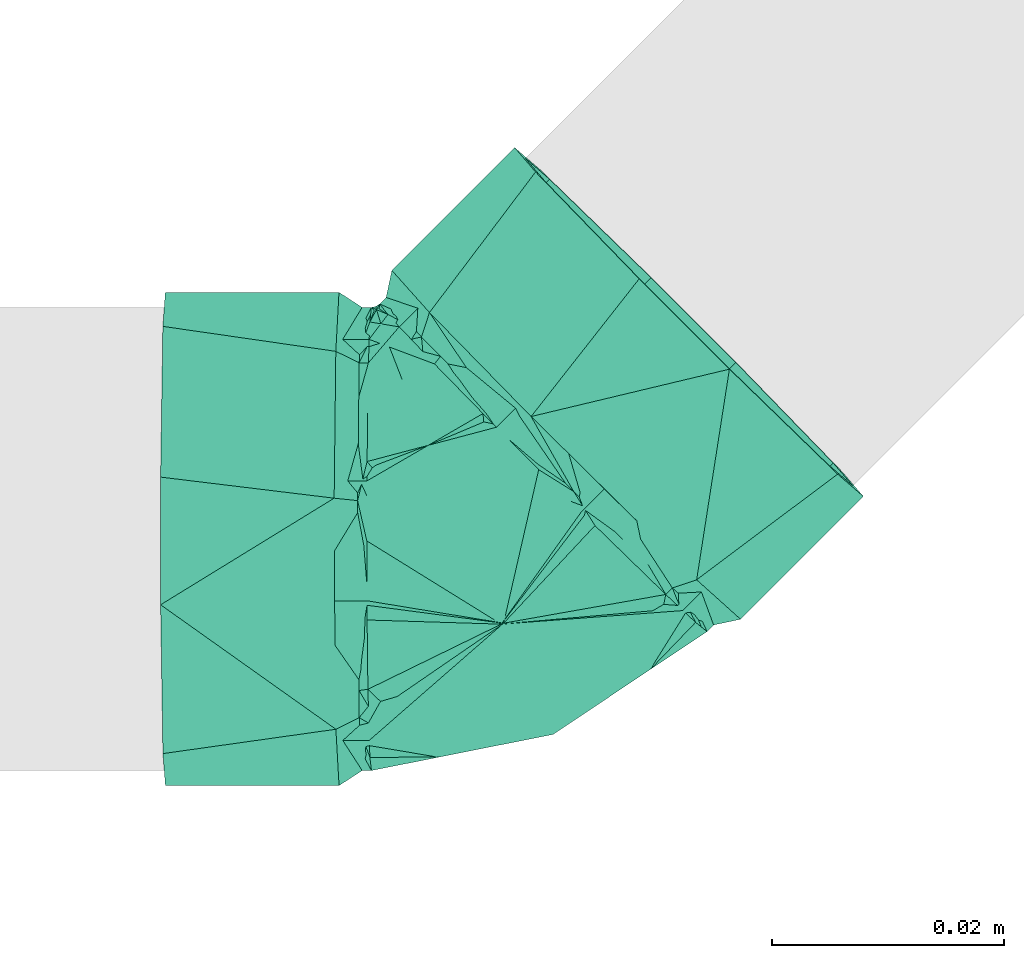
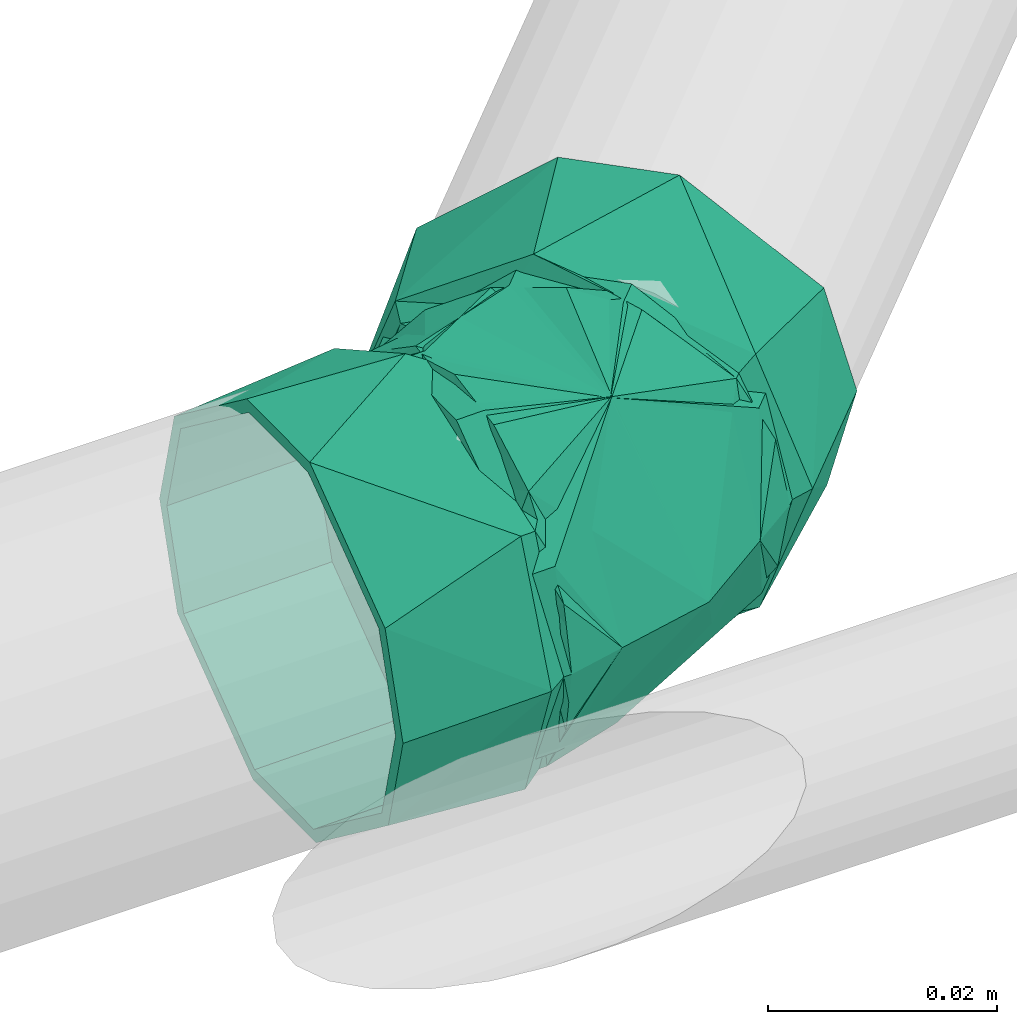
# One storey, part 314 of 589: 1 flow fitting.
"""IFC2X3 building model written with IfcOpenShell, lengths in millimetres."""

import ifcopenshell
import ifcopenshell.guid

model = None  # the IFC model being written
_history = None  # IfcOwnerHistory: only IFC2X3 demands one
_inside = {}  # id of a spatial element -> (the spatial element, [elements in it])
_under = {}  # id of a project, library or spatial element -> (it, [spatial elements below it])
_declared = {}  # id of a project -> (the project, [libraries it declares])
_typed = {}  # id of a type object -> (the type object, [elements of that type])
_made_of = {}  # id of a material, layer set ... -> (it, [elements and type objects made of it])


def new_model(schema):
    """Start an empty IFC model of exactly this schema.

    Asked for "IFC4X3", IfcOpenShell would pick the latest addendum, in which some entities
    have other attributes; the version numbers below select the first issue.
    IFC2X3 requires an IfcOwnerHistory on every rooted entity: one is made here for all.
    """
    global model, _history
    if schema == "IFC4X3":
        model = ifcopenshell.file(schema_version=(4, 3, 0, 0))
    else:
        model = ifcopenshell.file(schema=schema)
    _inside.clear()
    _under.clear()
    _declared.clear()
    _typed.clear()
    _made_of.clear()
    _history = None
    if model.schema == "IFC2X3":
        org = make("IfcOrganization", Name="unknown")
        user = make(
            "IfcPersonAndOrganization",
            ThePerson=make("IfcPerson", FamilyName="unknown"),
            TheOrganization=org,
        )
        app = make(
            "IfcApplication",
            ApplicationDeveloper=org,
            Version="unknown",
            ApplicationFullName="unknown",
            ApplicationIdentifier="unknown",
        )
        _history = make(
            "IfcOwnerHistory",
            OwningUser=user,
            OwningApplication=app,
            ChangeAction="ADDED",
            CreationDate=0,
        )
    return model


def make(cls, **values):
    """One entity of the class cls with the attributes given. An attribute that is None is left unset."""
    return model.create_entity(
        cls, **{name: value for name, value in values.items() if value is not None}
    )


def entity(cls, *values):
    """Any entity or typed value of the class cls, its attributes in the order of the schema. None: left unset."""
    e = model.create_entity(cls)
    for i, value in enumerate(values):
        if value is not None:
            e[i] = value
    return e


def rooted(cls, **values):
    """An entity with a GlobalId (a new one), such as an element, a storey or a relation."""
    return make(cls, GlobalId=ifcopenshell.guid.new(), OwnerHistory=_history, **values)


def si_unit(unit_type, name, prefix=None):
    """IfcSIUnit, for example si_unit("LENGTHUNIT", "METRE", prefix="MILLI")."""
    return make("IfcSIUnit", UnitType=unit_type, Prefix=prefix, Name=name)


def converted_unit(unit_type, name, factor, base, dimensions=None, offset=None):
    """IfcConversionBasedUnit, such as the inch: factor (a typed value) times the base unit."""
    return make(
        "IfcConversionBasedUnit"
        if offset is None
        else "IfcConversionBasedUnitWithOffset",
        ConversionOffset=offset,
        Dimensions=None
        if dimensions is None
        else entity("IfcDimensionalExponents", *dimensions),
        UnitType=unit_type,
        Name=name,
        ConversionFactor=make(
            "IfcMeasureWithUnit", ValueComponent=factor, UnitComponent=base
        ),
    )


def derived_unit(unit_type, elements):
    """IfcDerivedUnit: a product of units, each with its exponent."""
    return make(
        "IfcDerivedUnit",
        Elements=[
            make("IfcDerivedUnitElement", Unit=unit, Exponent=power)
            for unit, power in elements
        ],
        UnitType=unit_type,
    )


def assignment(units):
    """IfcUnitAssignment: the units of a project."""
    return None if units is None else make("IfcUnitAssignment", Units=units)


def point(xyz):
    """IfcCartesianPoint."""
    return None if xyz is None else make("IfcCartesianPoint", Coordinates=xyz)


def direction(xyz):
    """IfcDirection."""
    return None if xyz is None else make("IfcDirection", DirectionRatios=xyz)


def frame(location, z_axis=None, x_axis=None):
    """IfcAxis2Placement3D, a coordinate frame: its origin and axes. An axis left out is left unset."""
    return make(
        "IfcAxis2Placement3D",
        Location=point(location),
        Axis=direction(z_axis),
        RefDirection=direction(x_axis),
    )


def origin():
    """The frame at (0, 0, 0) with its axes left unset."""
    return frame((0.0, 0.0, 0.0))


def place(relative_to, where):
    """IfcLocalPlacement: puts the frame where relative to a parent placement (None: the world)."""
    return make(
        "IfcLocalPlacement", PlacementRelTo=relative_to, RelativePlacement=where
    )


def context(
    kind, dimensions, precision=None, world=None, true_north=None, identifier=None
):
    """IfcGeometricRepresentationContext, for example the 3D "Model" context."""
    return make(
        "IfcGeometricRepresentationContext",
        ContextIdentifier=identifier,
        ContextType=kind,
        CoordinateSpaceDimension=dimensions,
        Precision=precision,
        WorldCoordinateSystem=world,
        TrueNorth=true_north,
    )


def subcontext(parent, identifier, kind, view, scale=None):
    """IfcGeometricRepresentationSubContext, for example "Body" below "Model"."""
    return make(
        "IfcGeometricRepresentationSubContext",
        ContextIdentifier=identifier,
        ContextType=kind,
        ParentContext=parent,
        TargetScale=scale,
        TargetView=view,
    )


def project(units=None, contexts=None):
    """IfcProject with its units and contexts."""
    return rooted(
        "IfcProject",
        Name="project",
        RepresentationContexts=contexts,
        UnitsInContext=assignment(units),
    )


def spatial(cls, under=None, at=None, **own):
    """A site, building, storey or space (cls), placed at a placement, below another one or the project."""
    s = rooted(cls, ObjectPlacement=at, **own)
    if under is not None:
        _under.setdefault(under.id(), (under, []))[1].append(s)
    return s


def faces_of(points, faces, orient=None, outer=None):
    """IfcFace entities. A face is a list of loops; a loop is a list of indices into points, from 0.

    orient and outer hold one flag for each loop. By default every Orientation is true, the
    first loop of a face is its IfcFaceOuterBound and the others are IfcFaceBound.
    """
    made = []
    for i, loops in enumerate(faces):
        bounds = []
        for j, loop in enumerate(loops):
            is_outer = j == 0 if outer is None else outer[i][j]
            bounds.append(
                make(
                    "IfcFaceOuterBound" if is_outer else "IfcFaceBound",
                    Bound=make("IfcPolyLoop", Polygon=[points[k] for k in loop]),
                    Orientation=True if orient is None else orient[i][j],
                )
            )
        made.append(make("IfcFace", Bounds=bounds))
    return made


def faceted_brep(points, faces, orient=None, outer=None, voids=None):
    """IfcFacetedBrep: a solid bounded by flat faces; with voids (closed shells), ...WithVoids."""
    shared = [point(p) for p in points]
    hull = make("IfcClosedShell", CfsFaces=faces_of(shared, faces, orient, outer))
    if voids is None:
        return make("IfcFacetedBrep", Outer=hull)
    return make(
        "IfcFacetedBrepWithVoids",
        Outer=hull,
        Voids=[
            make(cls, CfsFaces=faces_of(shared, fs, o, b)) for cls, fs, o, b in voids
        ],
    )


def shape(context_of_items, identifier, shape_type, items):
    """IfcShapeRepresentation: the items that make up one representation, for example the "Body"."""
    return make(
        "IfcShapeRepresentation",
        ContextOfItems=context_of_items,
        RepresentationIdentifier=identifier,
        RepresentationType=shape_type,
        Items=items,
    )


def source(mapping_origin, context_of_items, identifier, shape_type, items):
    """IfcRepresentationMap: a shape defined once, which mapped items show again and again."""
    return make(
        "IfcRepresentationMap",
        MappingOrigin=mapping_origin,
        MappedRepresentation=shape(context_of_items, identifier, shape_type, items),
    )


def transform(
    local_origin,
    x_axis=None,
    y_axis=None,
    z_axis=None,
    scale=None,
    scale2=None,
    scale3=None,
    uniform=True,
):
    """IfcCartesianTransformationOperator3D, or its non-uniform kind. x_axis, y_axis, z_axis: its Axis1, 2, 3."""
    if uniform:
        return make(
            "IfcCartesianTransformationOperator3D",
            Axis1=direction(x_axis),
            Axis2=direction(y_axis),
            LocalOrigin=point(local_origin),
            Scale=scale,
            Axis3=direction(z_axis),
        )
    return make(
        "IfcCartesianTransformationOperator3DnonUniform",
        Axis1=direction(x_axis),
        Axis2=direction(y_axis),
        LocalOrigin=point(local_origin),
        Scale=scale,
        Axis3=direction(z_axis),
        Scale2=scale2,
        Scale3=scale3,
    )


def mapped(mapping_source, mapping_target):
    """IfcMappedItem: shows the shape of a source again, moved by a transform."""
    return make(
        "IfcMappedItem", MappingSource=mapping_source, MappingTarget=mapping_target
    )


def material(Name=None, Category=None):
    """IfcMaterial."""
    return make("IfcMaterial", Name=Name, Category=Category)


def made_of(thing, what):
    """Note that an element or type object is made of a material, layer set ...; save() writes the relation."""
    if what is not None:
        _made_of.setdefault(what.id(), (what, []))[1].append(thing)
    return thing


def type_object(cls, material=None, **own):
    """A type object (cls), such as IfcWallType, which elements share."""
    return made_of(rooted(cls, **own), material)


def type_shapes(of_type, sources):
    """Give a type object the sources (RepresentationMaps) that its elements show as mapped items."""
    of_type.RepresentationMaps = sources


def element(
    cls,
    number,
    at=None,
    inside=None,
    cuts=None,
    type_object=None,
    material=None,
    context=None,
    identifier="Body",
    shape_type=None,
    held_by="IfcProductDefinitionShape",
    body=None,
    shapes=None,
    **own,
):
    """One element of the class cls, such as IfcWall. Its Tag is "e" and its number.

    at: its placement. inside: the storey or other place that contains it. cuts: it is an
    opening in that element (IfcRelVoidsElement). A single representation is given by context,
    identifier, shape_type and body (its items); several are given by shapes. held_by: the class
    of the entity that holds the representations. save() writes the other relations.
    """
    e = rooted(cls, Tag="e%d" % number, ObjectPlacement=at, **own)
    if body is not None:
        shapes = [shape(context, identifier, shape_type, body)]
    if shapes is not None:
        e.Representation = make(held_by, Representations=shapes)
    if inside is not None:
        _inside.setdefault(inside.id(), (inside, []))[1].append(e)
    if cuts is not None:
        rooted(
            "IfcRelVoidsElement", RelatingBuildingElement=cuts, RelatedOpeningElement=e
        )
    if type_object is not None:
        _typed.setdefault(type_object.id(), (type_object, []))[1].append(e)
    return made_of(e, material)


def aggregate(whole, parts):
    """IfcRelAggregates: a whole, such as a stair, and the parts it consists of."""
    return rooted("IfcRelAggregates", RelatingObject=whole, RelatedObjects=parts)


def save(model, path):
    """Write the relations noted so far, then the file.

    IfcRelAggregates (storeys below a building ...), IfcRelContainedInSpatialStructure (elements
    in a storey), IfcRelDefinesByType, IfcRelAssociatesMaterial and IfcRelDeclares: one each for
    every whole, place, type object, material and project.
    """
    for whole, parts in _under.values():
        aggregate(whole, parts)
    for where, things in _inside.values():
        rooted(
            "IfcRelContainedInSpatialStructure",
            RelatedElements=things,
            RelatingStructure=where,
        )
    for kind, things in _typed.values():
        rooted("IfcRelDefinesByType", RelatedObjects=things, RelatingType=kind)
    for what, things in _made_of.values():
        rooted("IfcRelAssociatesMaterial", RelatedObjects=things, RelatingMaterial=what)
    for by, libraries in _declared.values():
        rooted("IfcRelDeclares", RelatingContext=by, RelatedDefinitions=libraries)
    model.write(path)


model = new_model("IFC2X3")

# Units and contexts
model_context = context("Model", 3, precision=0.01, world=origin(), true_north=direction((6.123031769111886e-17, 1.0)))
body_context = subcontext(model_context, "Body", "Model", "MODEL_VIEW")
ifc_project = project(units=[si_unit("LENGTHUNIT", "METRE", prefix="MILLI"), si_unit("AREAUNIT", "SQUARE_METRE"), si_unit("VOLUMEUNIT", "CUBIC_METRE"), converted_unit("PLANEANGLEUNIT", "DEGREE", entity("IfcRatioMeasure", 0.017453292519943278), si_unit("PLANEANGLEUNIT", "RADIAN"), dimensions=[0, 0, 0, 0, 0, 0, 0]), si_unit("MASSUNIT", "GRAM", prefix="KILO"), derived_unit("MASSDENSITYUNIT", [(si_unit("MASSUNIT", "GRAM", prefix="KILO"), 1), (si_unit("LENGTHUNIT", "METRE"), -3)]), derived_unit("IONCONCENTRATIONUNIT", [(si_unit("MASSUNIT", "GRAM", prefix="KILO"), 1), (si_unit("LENGTHUNIT", "METRE"), -3)]), derived_unit("MOMENTOFINERTIAUNIT", [(si_unit("LENGTHUNIT", "METRE"), 4)]), si_unit("TIMEUNIT", "SECOND"), si_unit("FREQUENCYUNIT", "HERTZ"), si_unit("THERMODYNAMICTEMPERATUREUNIT", "DEGREE_CELSIUS"), derived_unit("THERMALTRANSMITTANCEUNIT", [(si_unit("MASSUNIT", "GRAM", prefix="KILO"), 1), (si_unit("THERMODYNAMICTEMPERATUREUNIT", "KELVIN"), -1), (si_unit("TIMEUNIT", "SECOND"), -3)]), derived_unit("THERMALCONDUCTANCEUNIT", [(si_unit("MASSUNIT", "GRAM", prefix="KILO"), 1), (si_unit("THERMODYNAMICTEMPERATUREUNIT", "KELVIN"), -1), (si_unit("TIMEUNIT", "SECOND"), -3), (si_unit("LENGTHUNIT", "METRE"), 1)]), derived_unit("VOLUMETRICFLOWRATEUNIT", [(si_unit("LENGTHUNIT", "METRE"), 3), (si_unit("TIMEUNIT", "SECOND"), -1)]), derived_unit("MASSFLOWRATEUNIT", [(si_unit("MASSUNIT", "GRAM", prefix="KILO"), 1), (si_unit("TIMEUNIT", "SECOND"), -1)]), derived_unit("ROTATIONALFREQUENCYUNIT", [(si_unit("TIMEUNIT", "SECOND"), -1)]), si_unit("ELECTRICCURRENTUNIT", "AMPERE"), si_unit("ELECTRICVOLTAGEUNIT", "VOLT"), si_unit("POWERUNIT", "WATT"), si_unit("FORCEUNIT", "NEWTON", prefix="KILO"), si_unit("ILLUMINANCEUNIT", "LUX"), si_unit("LUMINOUSFLUXUNIT", "LUMEN"), si_unit("LUMINOUSINTENSITYUNIT", "CANDELA"), derived_unit("USERDEFINED", [(si_unit("MASSUNIT", "GRAM", prefix="KILO"), -1), (si_unit("LENGTHUNIT", "METRE"), -2), (si_unit("TIMEUNIT", "SECOND"), 3), (si_unit("LUMINOUSFLUXUNIT", "LUMEN"), 1)]), derived_unit("USERDEFINED", [(si_unit("MASSUNIT", "GRAM", prefix="KILO"), 1), (si_unit("TIMEUNIT", "SECOND"), -3), (si_unit("LENGTHUNIT", "METRE"), 3), (si_unit("ELECTRICCURRENTUNIT", "AMPERE"), -2)]), derived_unit("SOUNDPOWERUNIT", [(si_unit("MASSUNIT", "GRAM", prefix="KILO"), 1), (si_unit("TIMEUNIT", "SECOND"), -3), (si_unit("LENGTHUNIT", "METRE"), 2)]), derived_unit("SOUNDPRESSUREUNIT", [(si_unit("MASSUNIT", "GRAM", prefix="KILO"), 1), (si_unit("LENGTHUNIT", "METRE"), -1), (si_unit("TIMEUNIT", "SECOND"), -2)]), derived_unit("LINEARVELOCITYUNIT", [(si_unit("LENGTHUNIT", "METRE"), 1), (si_unit("TIMEUNIT", "SECOND"), -1)]), si_unit("PRESSUREUNIT", "PASCAL"), derived_unit("USERDEFINED", [(si_unit("MASSUNIT", "GRAM", prefix="KILO"), 1), (si_unit("LENGTHUNIT", "METRE"), -2), (si_unit("TIMEUNIT", "SECOND"), -2)]), derived_unit("LINEARFORCEUNIT", [(si_unit("MASSUNIT", "GRAM", prefix="KILO"), 1), (si_unit("TIMEUNIT", "SECOND"), -2)]), derived_unit("PLANARFORCEUNIT", [(si_unit("MASSUNIT", "GRAM", prefix="KILO"), 1), (si_unit("LENGTHUNIT", "METRE"), -1), (si_unit("TIMEUNIT", "SECOND"), -2)]), derived_unit("SPECIFICHEATCAPACITYUNIT", [(si_unit("THERMODYNAMICTEMPERATUREUNIT", "KELVIN"), -1), (si_unit("LENGTHUNIT", "METRE"), 2), (si_unit("TIMEUNIT", "SECOND"), -2)]), derived_unit("HEATINGVALUEUNIT", [(si_unit("LENGTHUNIT", "METRE"), 2), (si_unit("TIMEUNIT", "SECOND"), -2)]), derived_unit("VAPORPERMEABILITYUNIT", [(si_unit("LENGTHUNIT", "METRE"), -1), (si_unit("TIMEUNIT", "SECOND"), 1)]), derived_unit("DYNAMICVISCOSITYUNIT", [(si_unit("MASSUNIT", "GRAM", prefix="KILO"), 1), (si_unit("TIMEUNIT", "SECOND"), -1), (si_unit("LENGTHUNIT", "METRE"), -1)]), derived_unit("THERMALEXPANSIONCOEFFICIENTUNIT", [(si_unit("THERMODYNAMICTEMPERATUREUNIT", "KELVIN"), -1)]), derived_unit("MODULUSOFELASTICITYUNIT", [(si_unit("MASSUNIT", "GRAM", prefix="KILO"), 1), (si_unit("LENGTHUNIT", "METRE"), -1), (si_unit("TIMEUNIT", "SECOND"), -2)]), derived_unit("ISOTHERMALMOISTURECAPACITYUNIT", [(si_unit("LENGTHUNIT", "METRE"), 3), (si_unit("MASSUNIT", "GRAM", prefix="KILO"), -1)]), derived_unit("MOISTUREDIFFUSIVITYUNIT", [(si_unit("TIMEUNIT", "SECOND"), -1), (si_unit("LENGTHUNIT", "METRE"), 2)])], contexts=[model_context])

# Site, building, storey
site_placement = place(None, origin())
site = spatial("IfcSite", under=ifc_project, at=site_placement, Name="Default", CompositionType="ELEMENT")
building_placement = place(site_placement, origin())
building = spatial("IfcBuilding", under=site, at=building_placement, CompositionType="ELEMENT")
storey_placement = place(building_placement, frame((0.0, 0.0, 100.0)))
storey = spatial("IfcBuildingStorey", under=building, at=storey_placement, Name="TÉRREO", CompositionType="ELEMENT", Elevation=100.0)

# Flow fitting
ifc_material = material(Name="PVC Série Normal")
pipe_fitting_type = type_object("IfcPipeFittingType", Name="PVC Esgoto_Joelho 45_90_Rodrigo MEP:a. Série Normal", PredefinedType="NOTDEFINED", material=ifc_material)
shared_shape = source(origin(), body_context, "Body", "Brep", [
    faceted_brep([(2.4906876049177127, 9.80915852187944, 19.318516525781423), (-6.095084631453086, 18.39777540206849, 10.0), (-7.989457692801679, 20.29277610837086, 0.0), (-6.095084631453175, 18.397775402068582, -10.0), (2.4906876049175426, 9.80915852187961, -19.31851652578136), (9.809983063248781, 2.4874380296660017, -19.318516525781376), (18.39575529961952, -6.101178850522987, -10.0), (20.290128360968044, -7.99617955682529, 0.0), (18.39575529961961, -6.101178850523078, 10.0), (9.809983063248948, 2.4874380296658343, 19.318516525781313), (22.27035525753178, -6.016608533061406, 0.0), (20.37598219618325, -4.121607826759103, -10.0), (11.790209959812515, 4.467009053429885, -19.318516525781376), (4.470914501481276, 11.788729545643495, -19.31851652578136), (-4.1148577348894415, 20.377346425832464, -10.0), (-6.009230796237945, 22.272347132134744, 0.0), (-4.114857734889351, 20.377346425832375, 10.0), (4.470914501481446, 11.788729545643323, 19.318516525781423), (11.790209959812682, 4.467009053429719, 19.318516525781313), (20.37598219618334, -4.12160782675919, 10.0)], [[[0, 1, 2, 3, 4, 5, 6, 7, 8, 9]], [[10, 11, 12, 13, 14, 15, 16, 17, 18, 19]], [[7, 10, 19, 8]], [[8, 19, 18, 9]], [[18, 17, 0, 9]], [[0, 17, 16, 1]], [[1, 16, 15, 2]], [[2, 15, 14, 3]], [[3, 14, 13, 4]], [[13, 12, 5, 4]], [[5, 12, 11, 6]], [[6, 11, 10, 7]]]),
    faceted_brep([(-11.496447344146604, -17.320508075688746, -10.0), (-11.496447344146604, -20.0, 0.0), (-11.496447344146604, -17.320508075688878, 10.0), (-11.496447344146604, -5.176380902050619, 19.318516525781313), (-11.496447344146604, 5.1763809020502, 19.318516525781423), (-11.496447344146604, 17.320508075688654, 10.0), (-11.496447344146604, 20.0, 0.0), (-11.496447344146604, 17.320508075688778, -10.0), (-11.496447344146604, 5.17638090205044, -19.31851652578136), (-11.496447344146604, -5.176380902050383, -19.318516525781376), (-8.696447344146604, 5.17638090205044, -19.31851652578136), (-8.696447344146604, 17.320508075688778, -10.0), (-8.696447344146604, 20.0, 0.0), (-8.696447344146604, 17.320508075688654, 10.0), (-8.696447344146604, 5.1763809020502, 19.318516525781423), (-8.696447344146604, -5.176380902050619, 19.318516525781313), (-8.696447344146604, -17.320508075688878, 10.0), (-8.696447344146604, -20.0, 0.0), (-8.696447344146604, -17.320508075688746, -10.0), (-8.696447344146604, -5.176380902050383, -19.318516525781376)], [[[0, 1, 2, 3, 4, 5, 6, 7, 8, 9]], [[10, 11, 12, 13, 14, 15, 16, 17, 18, 19]], [[1, 17, 16, 2]], [[2, 16, 15, 3]], [[15, 14, 4, 3]], [[4, 14, 13, 5]], [[5, 13, 12, 6]], [[6, 12, 11, 7]], [[7, 11, 10, 8]], [[10, 19, 9, 8]], [[9, 19, 18, 0]], [[0, 18, 17, 1]]]),
    faceted_brep([(-26.496447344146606, -5.512845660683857, -20.574220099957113), (-26.496447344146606, -5.176380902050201, -19.318516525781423), (-26.496447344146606, 5.176380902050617, -19.318516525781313), (-26.496447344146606, -18.44634110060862, -10.649999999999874), (-26.496447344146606, 5.512845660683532, -20.574220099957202), (-26.496447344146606, -17.320508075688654, -10.0), (-26.496447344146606, -20.0, 0.0), (-26.496447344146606, -21.3, 0.0), (-26.496447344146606, -17.32050807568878, 10.0), (-26.496447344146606, -18.446341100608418, 10.65000000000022), (-26.496447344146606, -5.176380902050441, 19.31851652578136), (-26.496447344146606, -5.512845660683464, 20.574220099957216), (-26.496447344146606, 5.176380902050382, 19.318516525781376), (-26.496447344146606, 5.512845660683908, 20.5742200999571), (-26.496447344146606, 17.320508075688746, 10.0), (-26.496447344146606, 18.446341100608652, 10.649999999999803), (-26.496447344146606, 21.3, 0.0), (-26.496447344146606, 20.0, 0.0), (-26.496447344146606, 18.44634110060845, -10.650000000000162), (-26.496447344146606, 17.320508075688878, -10.0), (-11.496447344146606, 17.320508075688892, -10.0), (-11.496447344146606, 20.0, 0.0), (-11.496447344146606, 5.17638090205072, -19.318516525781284), (-11.496447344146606, -5.176380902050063, -19.31851652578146), (-11.496447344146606, -17.320508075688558, -10.0), (-11.496447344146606, -20.0, 0.0), (-11.496447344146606, -17.320508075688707, 10.0), (-11.496447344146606, -5.176380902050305, 19.318516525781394), (-11.496447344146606, 5.176380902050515, 19.318516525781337), (-11.496447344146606, 17.320508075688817, 10.0), (-11.496447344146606, 21.3, 0.0), (-11.496447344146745, 16.315983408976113, 13.692285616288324), (-11.496447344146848, 3.696367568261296, 20.976817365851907), (-11.496447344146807, -16.31941754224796, 13.688192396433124), (-11.496447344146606, -21.3, 0.0), (-11.496447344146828, -6.311524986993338, 17.3325048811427), (-11.496447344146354, -16.319417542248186, -13.688192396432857), (-11.496447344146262, -3.7016293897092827, -20.975889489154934), (-11.49644734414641, 16.315983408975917, -13.692285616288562), (-11.496447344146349, 6.307177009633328, -17.334087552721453), (-9.496447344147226, -3.470767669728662, -19.69654212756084), (-9.496447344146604, 20.0, 0.0), (-9.496447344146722, 18.830849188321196, -3.2131907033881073), (-9.496447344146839, 17.66169837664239, -6.426381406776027), (-9.496447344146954, 16.4925475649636, -9.639572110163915), (-9.496447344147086, 15.323396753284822, -12.852762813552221), (-9.496447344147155, 5.9263145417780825, -16.27465247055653), (-9.496447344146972, -15.320172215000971, -12.856606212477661), (-9.496447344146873, -16.490129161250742, -9.642454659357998), (-9.496447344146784, -17.660086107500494, -6.428303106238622), (-9.496447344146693, -18.830043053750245, -3.214151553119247), (-9.496447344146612, -20.0, 0.0), (-9.496447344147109, 10.624855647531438, -14.563707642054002), (-9.496447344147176, 1.2277734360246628, -17.98559729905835), (-9.49644734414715, -6.433118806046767, -17.98655814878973), (-9.496447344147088, -9.395469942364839, -16.276574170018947), (-9.496447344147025, -12.357821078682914, -14.566590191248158), (-9.49644734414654, -18.830043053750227, 3.2141515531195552), (-9.496447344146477, -17.660086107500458, 6.428303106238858), (-9.49644734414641, -16.490129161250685, 9.64245465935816), (-9.496447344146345, -15.3201722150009, 12.856606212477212), (-9.496447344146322, -12.970687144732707, 13.711489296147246), (-9.496447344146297, -10.621202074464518, 14.566372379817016), (-9.496447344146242, -5.922231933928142, 16.27613854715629), (-9.496447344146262, 15.323396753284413, 12.852762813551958), (-9.496447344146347, 16.49254756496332, 9.63957211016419), (-9.496447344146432, 17.661698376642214, 6.426381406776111), (-9.496447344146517, 18.830849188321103, 3.213190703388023), (-9.496447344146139, 3.47570834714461, 19.695670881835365), (-9.496447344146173, 6.43763044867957, 17.984943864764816), (-9.496447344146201, 9.399552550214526, 16.274216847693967), (-9.496447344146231, 12.361474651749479, 14.563489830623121), (-9.496447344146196, -1.2232617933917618, 17.985904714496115), (-8.696447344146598, 17.057389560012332, 9.848048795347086), (-8.696447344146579, 6.840479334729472, 18.793824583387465), (-8.696447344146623, -9.848049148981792, 17.057385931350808), (-8.696447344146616, -3.420183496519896, 19.396932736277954), (-8.696447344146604, 0.0, 20.0), (-8.696447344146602, 19.396930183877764, 3.4201905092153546), (-8.696447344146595, 15.320918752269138, 12.855716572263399), (-8.696447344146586, 11.080699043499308, 15.82477057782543), (-8.696447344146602, 18.793860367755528, 6.840381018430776), (-8.696447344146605, -18.793848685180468, 6.840413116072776), (-8.696447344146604, 20.0, 0.0), (-8.696447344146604, -20.0, 0.0), (-8.69644734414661, -15.824789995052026, 11.080659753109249), (-8.696447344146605, -19.156924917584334, 4.781308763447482), (-8.696447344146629, -6.84036699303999, 18.793865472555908), (-8.696447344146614, -14.34026064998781, 13.200783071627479), (-8.696447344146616, -12.855731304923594, 15.320906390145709), (-8.696447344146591, 3.420239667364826, 19.396912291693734), (-8.696447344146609, -17.057361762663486, -9.848091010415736), (-8.696447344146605, -18.793848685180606, -6.840413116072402), (-8.696447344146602, 19.39693018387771, -3.4201905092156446), (-8.696447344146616, -3.420183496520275, -19.396932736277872), (-8.696447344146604, 0.0, -20.0), (-8.696447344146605, -19.396924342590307, -3.4202065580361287), (-8.696447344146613, -15.320874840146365, -12.85576890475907), (-8.69644734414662, -11.080620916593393, -15.824817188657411), (-8.696447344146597, 15.824828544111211, -11.080616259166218), (-8.696447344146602, 18.79386036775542, -6.84038101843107), (-8.696447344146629, -6.840366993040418, -18.79386547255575), (-8.696447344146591, 12.855796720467, -15.320851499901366), (-8.696447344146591, 3.420239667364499, -19.396912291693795), (-8.696447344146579, 6.840479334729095, -18.7938245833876), (-8.696447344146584, 9.848138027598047, -17.05733804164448), (9.809983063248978, 2.4874380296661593, -19.318516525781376), (2.4906876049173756, 9.809158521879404, -19.31851652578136), (-6.095084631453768, 18.397775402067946, -10.0), (-7.989457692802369, 20.292776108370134, 0.0), (-6.095084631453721, 18.3977754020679, 10.0), (2.490687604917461, 9.809158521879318, 19.31851652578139), (9.809983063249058, 2.487438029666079, 19.318516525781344), (18.395755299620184, -6.101178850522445, 10.0), (20.29012836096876, -7.996179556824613, 0.0), (18.39575529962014, -6.101178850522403, -10.0), (-2.9114305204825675, -18.849537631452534, 0.0), (15.385461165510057, -11.272492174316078, 0.0), (2.8664382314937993, -7.211469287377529, 17.605576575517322), (6.9904363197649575, -16.880360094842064, 0.0), (-8.313840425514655, 20.076088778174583, 0.0), (2.8664382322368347, -7.211469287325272, -17.605576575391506)], [[[0, 1, 2]], [[1, 0, 3]], [[2, 4, 0]], [[3, 5, 1]], [[3, 6, 5]], [[6, 3, 7]], [[8, 6, 7]], [[8, 7, 9]], [[9, 10, 8]], [[9, 11, 10]], [[10, 11, 12]], [[13, 12, 11]], [[13, 14, 12]], [[14, 13, 15]], [[16, 14, 15]], [[17, 14, 16]], [[18, 17, 16]], [[18, 19, 17]], [[19, 18, 4]], [[4, 2, 19]], [[20, 21, 17, 19]], [[22, 20, 19, 2]], [[2, 1, 23, 22]], [[24, 23, 1, 5]], [[25, 24, 5, 6]], [[26, 25, 6, 8]], [[27, 26, 8, 10]], [[10, 12, 28, 27]], [[29, 28, 12, 14]], [[21, 29, 14, 17]], [[16, 15, 30]], [[15, 31, 30]], [[31, 15, 13]], [[31, 13, 32]], [[33, 11, 9]], [[34, 9, 7]], [[11, 33, 35, 32]], [[33, 9, 34]], [[11, 32, 13]], [[7, 3, 34]], [[3, 36, 34]], [[36, 3, 0]], [[36, 0, 37]], [[38, 4, 18]], [[30, 18, 16]], [[4, 38, 39, 37]], [[38, 18, 30]], [[4, 37, 0]], [[28, 29, 21, 20, 22, 23, 24, 25, 26, 27]], [[39, 40, 37]], [[30, 41, 42, 43, 44, 45]], [[30, 45, 38]], [[38, 46, 39]], [[36, 47, 48, 49, 50, 51]], [[38, 45, 52, 46]], [[36, 37, 47]], [[34, 36, 51]], [[39, 46, 53, 40]], [[37, 40, 54, 55, 56, 47]], [[33, 51, 57, 58, 59, 60]], [[33, 34, 51]], [[60, 35, 33]], [[35, 60, 61, 62, 63]], [[63, 32, 35]], [[30, 64, 65, 66, 67, 41]], [[31, 68, 69, 70, 71, 64]], [[31, 64, 30]], [[32, 63, 72, 68]], [[68, 31, 32]], [[64, 73, 65]], [[74, 70, 69, 68]], [[62, 75, 63]], [[76, 77, 72]], [[78, 67, 66]], [[79, 71, 80]], [[65, 81, 66]], [[64, 79, 73]], [[82, 59, 58]], [[83, 41, 67]], [[84, 57, 51]], [[60, 59, 85]], [[83, 67, 78]], [[86, 82, 58]], [[81, 65, 73]], [[63, 87, 76]], [[63, 76, 72]], [[63, 75, 87]], [[82, 85, 59]], [[68, 72, 77]], [[66, 81, 78]], [[61, 88, 89]], [[89, 62, 61]], [[68, 77, 90, 74]], [[84, 86, 57]], [[86, 58, 57]], [[89, 75, 62]], [[61, 60, 88]], [[60, 85, 88]], [[74, 80, 70]], [[71, 79, 64]], [[71, 70, 80]], [[49, 91, 92]], [[93, 43, 42]], [[54, 40, 94]], [[40, 53, 95]], [[51, 96, 84]], [[97, 56, 98]], [[48, 97, 91]], [[91, 49, 48]], [[99, 44, 100]], [[101, 55, 54]], [[96, 51, 50]], [[83, 42, 41]], [[45, 99, 102]], [[49, 92, 50]], [[42, 83, 93]], [[48, 47, 97]], [[53, 103, 95]], [[104, 103, 46]], [[52, 105, 46]], [[44, 99, 45]], [[46, 103, 53]], [[50, 92, 96]], [[105, 52, 102]], [[44, 43, 100]], [[40, 95, 94]], [[100, 43, 93]], [[102, 52, 45]], [[105, 104, 46]], [[101, 98, 55]], [[54, 94, 101]], [[56, 97, 47]], [[56, 55, 98]], [[106, 107, 108, 109, 110, 111, 112, 113, 114, 115]], [[116, 89, 88, 85, 82]], [[117, 118, 119]], [[118, 89, 119]], [[118, 77, 76, 87]], [[116, 82, 86, 84]], [[118, 74, 90, 77]], [[110, 81, 73, 79]], [[111, 79, 80, 74]], [[118, 87, 75, 89]], [[89, 116, 119]], [[74, 118, 111]], [[118, 113, 112]], [[118, 117, 113]], [[120, 83, 78, 81]], [[81, 109, 120]], [[109, 81, 110]], [[117, 114, 113]], [[111, 110, 79]], [[111, 118, 112]], [[104, 107, 121]], [[116, 92, 91, 97]], [[108, 102, 99, 100]], [[115, 121, 106]], [[97, 121, 119]], [[107, 104, 105, 102]], [[116, 84, 96, 92]], [[97, 119, 116]], [[121, 97, 98, 101]], [[121, 95, 103, 104]], [[109, 100, 120]], [[108, 100, 109]], [[107, 102, 108]], [[121, 101, 94, 95]], [[107, 106, 121]], [[119, 121, 117]], [[115, 117, 121]], [[115, 114, 117]], [[120, 100, 93, 83]]]),
    faceted_brep([(-6.009230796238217, 22.27234713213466, 0.0), (-4.114857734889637, 20.37734642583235, 10.0), (4.470914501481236, 11.788729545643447, 19.318516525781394), (11.790209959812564, 4.467009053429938, 19.318516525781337), (20.375982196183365, -4.1216078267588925, 10.0), (22.27035525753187, -6.016608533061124, 0.0), (20.37598219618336, -4.121607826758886, -10.0), (11.790209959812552, 4.467009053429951, -19.318516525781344), (4.470914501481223, 11.788729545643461, -19.31851652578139), (-4.114857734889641, 20.377346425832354, -10.0), (23.18944180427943, -6.935999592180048, 0.0), (20.855907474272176, -7.430587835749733, 0.0), (20.02932994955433, -6.603736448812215, -3.213190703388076), (19.20275242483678, -5.7768850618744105, -6.426381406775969), (18.376174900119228, -4.950033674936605, -9.639572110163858), (17.54959737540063, -4.123182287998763, -12.852762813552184), (3.6683793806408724, 12.591530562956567, -17.332504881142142), (10.743855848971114, 5.513709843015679, -20.976817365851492), (4.26231762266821, 9.168499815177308, -19.69654212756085), (19.665793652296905, -3.411183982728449, -13.692285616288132), (-4.115088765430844, 17.54868181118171, -12.856606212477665), (-3.407097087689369, 19.669351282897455, -13.688192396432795), (2.167966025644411, 11.263545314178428, -17.986558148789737), (0.0736144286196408, 13.358590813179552, -16.27657417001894), (-2.0207371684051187, 15.453636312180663, -14.566590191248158), (10.905957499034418, 2.5226587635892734, -16.274652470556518), (-4.942236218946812, 18.37610331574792, -9.642454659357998), (-5.7693836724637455, 19.203524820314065, -6.428303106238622), (-6.596531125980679, 20.030946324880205, -3.2141515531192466), (-7.423678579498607, 20.858367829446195, 0.0), (-6.928317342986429, 23.191738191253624, 0.0), (14.227777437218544, -0.800261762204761, -14.563707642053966), (7.584137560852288, 5.845579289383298, -17.98559729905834), (-3.4070970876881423, 19.669351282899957, 13.688192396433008), (-6.596531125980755, 20.030946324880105, 3.2141515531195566), (-5.7693836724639, 19.20352482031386, 6.428303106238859), (-4.942236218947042, 18.37610331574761, 9.64245465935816), (-4.115088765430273, 17.548681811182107, 12.856606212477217), (12.589671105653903, 3.6672830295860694, 17.334087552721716), (5.513548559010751, 10.745750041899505, 20.97588948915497), (9.173404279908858, 4.255786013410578, 19.695670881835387), (17.549597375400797, -4.123182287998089, 12.852762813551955), (19.66579365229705, -3.4111839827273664, 13.692285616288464), (11.267452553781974, 2.1610439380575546, 17.984943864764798), (13.361500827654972, 0.0663018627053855, 16.274216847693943), (15.455549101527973, -2.028440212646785, 14.563489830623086), (2.5291577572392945, 10.902233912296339, 16.276138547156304), (18.376174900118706, -4.950033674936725, 9.639572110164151), (19.202752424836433, -5.77688506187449, 6.426381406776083), (20.029329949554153, -6.603736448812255, 3.2131907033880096), (-2.4540271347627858, 15.887069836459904, 13.711489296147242), (-0.7929655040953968, 14.225457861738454, 14.566372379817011), (5.851281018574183, 7.579009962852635, 17.985904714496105), (14.841395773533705, 22.631530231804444, -20.574220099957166), (15.079272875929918, 22.39357431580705, -19.318516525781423), (22.398568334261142, 15.071853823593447, -19.318516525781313), (5.697548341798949, 31.77840720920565, -10.649999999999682), (22.63644543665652, 14.833897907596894, -20.574220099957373), (6.493500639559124, 30.982191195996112, -10.0), (4.599127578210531, 32.877191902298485, 0.0), (3.6800410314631, 33.79658296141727, 0.0), (6.493500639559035, 30.9821911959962, 10.0), (5.69754834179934, 31.778407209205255, 10.650000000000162), (15.079272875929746, 22.393574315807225, 19.31851652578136), (14.841395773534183, 22.631530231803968, 20.5742200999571), (22.39856833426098, 15.071853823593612, 19.318516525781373), (22.636445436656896, 14.833897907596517, 20.57422009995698), (30.984340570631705, 6.48323694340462, 10.0), (31.780292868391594, 5.687020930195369, 10.649999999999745), (33.79780017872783, 3.668845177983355, 0.0), (32.87871363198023, 4.588236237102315, 0.0), (31.780292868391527, 5.687020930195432, -10.650000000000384), (30.984340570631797, 6.4832369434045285, -10.0), (18.209713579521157, -5.915075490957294, 9.848091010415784), (10.98640400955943, 1.3106273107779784, 18.793865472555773), (-0.8121963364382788, 13.113136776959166, 17.057338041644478), (3.7322612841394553, 8.567173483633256, 19.396912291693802), (6.150335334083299, 6.148298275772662, 20.0), (19.863760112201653, -7.5696700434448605, 3.420206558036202), (16.98203529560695, -4.686990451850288, 12.855768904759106), (13.984219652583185, -1.6881815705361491, 15.824817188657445), (19.43739186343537, -7.143160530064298, 6.84041311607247), (-7.136729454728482, 19.43976534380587, 6.840381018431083), (20.29012836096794, -7.996179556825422, 0.0), (-7.989457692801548, 20.29277610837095, 0.0), (-5.037654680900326, 17.33999510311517, 11.080616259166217), (-7.393415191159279, 19.696536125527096, 4.781309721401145), (1.3141872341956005, 10.986048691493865, 18.793824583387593), (-3.98811729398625, 16.290109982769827, 13.200733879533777), (-2.9385799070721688, 15.240224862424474, 15.320851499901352), (8.568369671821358, 3.7294627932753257, 19.39693273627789), (-5.909062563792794, 18.211691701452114, -9.848048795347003), (-7.13672945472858, 19.439765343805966, -6.840381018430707), (19.86376011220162, -7.5696700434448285, -3.420206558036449), (3.732261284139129, 8.567173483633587, -19.396912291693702), (6.15033533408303, 6.148298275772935, -20.0), (-7.563093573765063, 19.86627072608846, -3.4201905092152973), (-4.681395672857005, 16.983618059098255, -12.85571657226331), (-1.6836042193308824, 13.98483337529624, -15.824770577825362), (17.33829809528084, -5.043371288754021, -11.080659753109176), (19.437391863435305, -7.143160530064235, -6.840413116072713), (1.3141872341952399, 10.986048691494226, -18.793824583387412), (15.23920432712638, -2.9435820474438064, -15.32090639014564), (8.568369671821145, 3.729462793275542, -19.396932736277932), (10.986404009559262, 1.3106273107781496, -18.79386547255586), (13.112804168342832, -0.8164773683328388, -17.05738593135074), (-8.696447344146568, -17.32050807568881, 10.0), (-8.696447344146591, -5.176380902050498, 19.318516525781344), (-8.696447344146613, 5.176380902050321, 19.31851652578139), (-8.696447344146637, 17.320508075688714, 10.0), (-8.696447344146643, 20.0, 0.0), (-8.696447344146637, 17.320508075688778, -10.0), (-8.696447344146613, 5.176380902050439, -19.31851652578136), (-8.696447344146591, -5.176380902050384, -19.318516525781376), (-8.696447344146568, -17.32050807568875, -10.0), (-8.696447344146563, -20.0, 0.0), (6.9904363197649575, -16.880360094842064, 0.0), (3.0712196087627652, -7.126666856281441, 17.605576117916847), (-2.9114305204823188, -18.84953763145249, 0.0), (-8.313840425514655, 20.076088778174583, 0.0), (15.385461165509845, -11.272492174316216, 0.0), (3.071219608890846, -7.126666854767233, -17.6055761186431)], [[[0, 1, 2, 3, 4, 5, 6, 7, 8, 9]], [[10, 11, 12, 13, 14, 15]], [[16, 17, 18]], [[19, 10, 15]], [[16, 20, 21]], [[16, 18, 22, 23, 24, 20]], [[19, 25, 17]], [[21, 20, 26, 27, 28, 29]], [[21, 29, 30]], [[19, 15, 31, 25]], [[17, 25, 32, 18]], [[33, 29, 34, 35, 36, 37]], [[38, 39, 40]], [[33, 30, 29]], [[38, 41, 42]], [[38, 40, 43, 44, 45, 41]], [[33, 46, 39]], [[10, 41, 47, 48, 49, 11]], [[42, 41, 10]], [[33, 37, 50, 51, 46]], [[39, 46, 52, 40]], [[53, 54, 55]], [[54, 53, 56]], [[55, 57, 53]], [[56, 58, 54]], [[56, 59, 58]], [[59, 56, 60]], [[61, 59, 60]], [[61, 60, 62]], [[62, 63, 61]], [[62, 64, 63]], [[63, 64, 65]], [[66, 65, 64]], [[66, 67, 65]], [[67, 66, 68]], [[69, 67, 68]], [[70, 67, 69]], [[71, 70, 69]], [[71, 72, 70]], [[72, 71, 57]], [[57, 55, 72]], [[69, 68, 10]], [[68, 42, 10]], [[42, 68, 66]], [[66, 39, 38, 42]], [[33, 64, 62]], [[30, 62, 60]], [[64, 33, 39]], [[33, 62, 30]], [[64, 39, 66]], [[60, 56, 30]], [[56, 21, 30]], [[21, 56, 53]], [[53, 17, 16, 21]], [[19, 57, 71]], [[10, 71, 69]], [[57, 19, 17]], [[19, 71, 10]], [[57, 17, 53]], [[6, 5, 70, 72]], [[7, 6, 72, 55]], [[55, 54, 8, 7]], [[9, 8, 54, 58]], [[0, 9, 58, 59]], [[1, 0, 59, 61]], [[2, 1, 61, 63]], [[63, 65, 3, 2]], [[4, 3, 65, 67]], [[5, 4, 67, 70]], [[41, 73, 47]], [[74, 44, 43, 40]], [[51, 75, 46]], [[76, 77, 52]], [[78, 49, 48]], [[79, 45, 80]], [[47, 81, 48]], [[41, 79, 73]], [[82, 36, 35]], [[83, 11, 49]], [[84, 34, 29]], [[37, 36, 85]], [[83, 49, 78]], [[86, 82, 35]], [[81, 47, 73]], [[46, 87, 76]], [[46, 76, 52]], [[46, 75, 87]], [[82, 85, 36]], [[40, 52, 77]], [[48, 81, 78]], [[50, 88, 89]], [[89, 51, 50]], [[40, 77, 90, 74]], [[84, 86, 34]], [[86, 35, 34]], [[89, 75, 51]], [[50, 37, 88]], [[37, 85, 88]], [[74, 80, 44]], [[45, 79, 41]], [[45, 44, 80]], [[27, 91, 92]], [[93, 13, 12]], [[22, 18, 94]], [[18, 32, 95]], [[29, 96, 84]], [[97, 24, 98]], [[26, 97, 91]], [[91, 27, 26]], [[99, 14, 100]], [[101, 23, 22]], [[96, 29, 28]], [[83, 12, 11]], [[15, 99, 102]], [[27, 92, 28]], [[12, 83, 93]], [[26, 20, 97]], [[32, 103, 95]], [[104, 103, 25]], [[31, 105, 25]], [[14, 99, 15]], [[25, 103, 32]], [[28, 92, 96]], [[105, 31, 102]], [[14, 13, 100]], [[18, 95, 94]], [[100, 13, 93]], [[102, 31, 15]], [[105, 104, 25]], [[101, 98, 23]], [[22, 94, 101]], [[24, 97, 20]], [[24, 23, 98]], [[106, 107, 108, 109, 110, 111, 112, 113, 114, 115]], [[116, 117, 118]], [[107, 117, 108]], [[118, 117, 106]], [[109, 108, 89]], [[82, 119, 110]], [[110, 109, 82]], [[106, 115, 118]], [[117, 74, 90, 77]], [[79, 117, 116]], [[117, 79, 80, 74]], [[79, 116, 120]], [[117, 77, 76, 87]], [[119, 82, 86, 84]], [[120, 81, 73, 79]], [[109, 89, 88, 85, 82]], [[108, 87, 75, 89]], [[106, 117, 107]], [[117, 87, 108]], [[120, 83, 78, 81]], [[121, 112, 101]], [[111, 110, 92]], [[118, 115, 114]], [[111, 97, 112]], [[121, 118, 114]], [[121, 114, 113]], [[113, 112, 121]], [[92, 110, 119]], [[111, 92, 91, 97]], [[112, 97, 98, 101]], [[121, 104, 105, 102]], [[118, 121, 116]], [[121, 101, 94, 95]], [[102, 116, 121]], [[120, 100, 93, 83]], [[116, 102, 120]], [[120, 102, 99, 100]], [[121, 95, 103, 104]], [[119, 84, 96, 92]]]),
])
type_shapes(pipe_fitting_type, [shared_shape])
flow_fitting_placement = place(storey_placement, frame((-3592.854303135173, -7702.352283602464, -112.1054186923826), z_axis=(-0.01999531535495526, -0.008282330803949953, 0.999765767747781), x_axis=(0.9998000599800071, 0.0, 0.01999600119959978)))
element("IfcFlowFitting", 1, at=flow_fitting_placement, inside=storey, type_object=pipe_fitting_type, material=ifc_material, Name="PVC Esgoto_Joelho 45_90_Rodrigo MEP:a. Série Normal", ObjectType="PVC Esgoto_Joelho 45_90_Rodrigo MEP:a. Série Normal", context=body_context, shape_type="MappedRepresentation", body=[
    mapped(shared_shape, transform((0.0, 0.0, 0.0), scale=1.0)),
])

save(model, "model.ifc")
